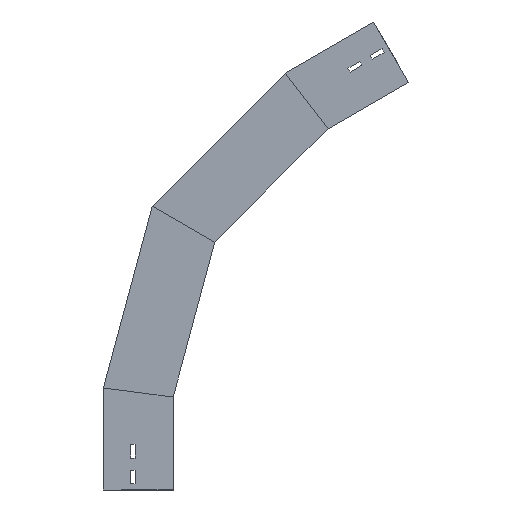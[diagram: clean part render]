
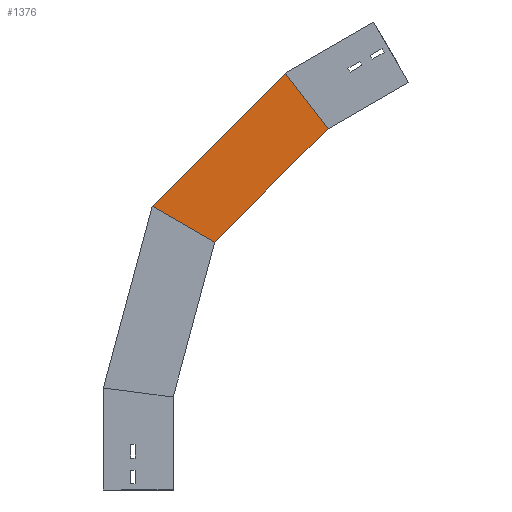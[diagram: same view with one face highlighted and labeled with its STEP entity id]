
A CAD part, left-side view. The second image highlights one B-rep face of the part: STEP entity #1376.
In plain terms, the highlighted planar face has unit normal (-1, 0, 0) as drawn and (1, 0, 0) by its records, which use the part's own axes.
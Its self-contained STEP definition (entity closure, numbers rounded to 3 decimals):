
#149 = CARTESIAN_POINT ( 'NONE',  ( 0., 33.831, 458.409 ) ) ;
#160 = EDGE_LOOP ( 'NONE', ( #1594, #971, #1203, #1055 ) ) ;
#162 = VECTOR ( 'NONE', #905, 1000. ) ;
#191 = DIRECTION ( 'NONE',  ( 1., 0., 0. ) ) ;
#344 = VECTOR ( 'NONE', #1691, 1000. ) ;
#437 = EDGE_CURVE ( 'NONE', #898, #1521, #1232, .T. ) ;
#515 = CARTESIAN_POINT ( 'NONE',  ( 0., -19.411, 147.444 ) ) ;
#523 = CARTESIAN_POINT ( 'NONE',  ( 0., 112.5, 164.811 ) ) ;
#525 = EDGE_CURVE ( 'NONE', #1415, #595, #1301, .T. ) ;
#560 = DIRECTION ( 'NONE',  ( 0., -0.866, -0.5 ) ) ;
#594 = DIRECTION ( 'NONE',  ( 0., 0., -1. ) ) ;
#595 = VERTEX_POINT ( 'NONE', #149 ) ;
#614 = EDGE_CURVE ( 'NONE', #595, #1521, #793, .T. ) ;
#652 = CARTESIAN_POINT ( 'NONE',  ( 0., -67.034, 400.175 ) ) ;
#737 = CARTESIAN_POINT ( 'NONE',  ( 0., 4.243, 134.167 ) ) ;
#779 = CARTESIAN_POINT ( 'NONE',  ( 0., -128.762, 364.536 ) ) ;
#793 = LINE ( 'NONE', #779, #1615 ) ;
#839 = FACE_OUTER_BOUND ( 'NONE', #160, .T. ) ;
#898 = VERTEX_POINT ( 'NONE', #965 ) ;
#905 = DIRECTION ( 'NONE',  ( 0., -0.991, -0.131 ) ) ;
#965 = CARTESIAN_POINT ( 'NONE',  ( 0., 0., 150. ) ) ;
#971 = ORIENTED_EDGE ( 'NONE', *, *, #614, .T. ) ;
#1030 = VECTOR ( 'NONE', #1455, 1000. ) ;
#1055 = ORIENTED_EDGE ( 'NONE', *, *, #1444, .F. ) ;
#1137 = LINE ( 'NONE', #515, #162 ) ;
#1144 = CARTESIAN_POINT ( 'NONE',  ( 0., 112.909, 163.284 ) ) ;
#1203 = ORIENTED_EDGE ( 'NONE', *, *, #437, .F. ) ;
#1232 = LINE ( 'NONE', #737, #1030 ) ;
#1301 = LINE ( 'NONE', #1144, #344 ) ;
#1361 = PLANE ( 'NONE',  #1632 ) ;
#1376 = ADVANCED_FACE ( 'NONE', ( #839 ), #1361, .T. ) ;
#1388 = CARTESIAN_POINT ( 'NONE',  ( 0., 4.243, 134.167 ) ) ;
#1415 = VERTEX_POINT ( 'NONE', #523 ) ;
#1444 = EDGE_CURVE ( 'NONE', #1415, #898, #1137, .T. ) ;
#1455 = DIRECTION ( 'NONE',  ( 0., -0.259, 0.966 ) ) ;
#1521 = VERTEX_POINT ( 'NONE', #652 ) ;
#1594 = ORIENTED_EDGE ( 'NONE', *, *, #525, .T. ) ;
#1615 = VECTOR ( 'NONE', #560, 1000. ) ;
#1632 = AXIS2_PLACEMENT_3D ( 'NONE', #1388, #191, #594 ) ;
#1691 = DIRECTION ( 'NONE',  ( 0., -0.259, 0.966 ) ) ;
